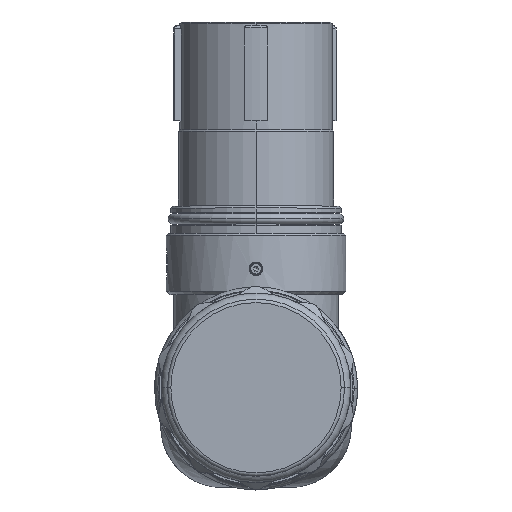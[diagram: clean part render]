
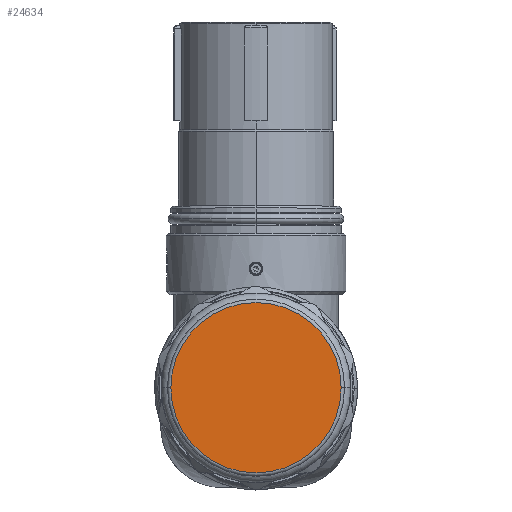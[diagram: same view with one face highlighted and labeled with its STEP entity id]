
A CAD part, top view. The second image highlights one B-rep face of the part: STEP entity #24634.
In plain terms, the highlighted planar face has unit normal (0, 0, 1).
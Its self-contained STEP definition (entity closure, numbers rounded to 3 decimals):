
#499 = DIRECTION ( 'NONE',  ( 1., 0., 0. ) ) ;
#3414 = EDGE_CURVE ( 'NONE', #26444, #29775, #13544, .T. ) ;
#5078 = CARTESIAN_POINT ( 'NONE',  ( 0., 0., 78.1 ) ) ;
#5957 = FACE_OUTER_BOUND ( 'NONE', #23673, .T. ) ;
#7763 = DIRECTION ( 'NONE',  ( 1., 0., 0. ) ) ;
#12007 = CARTESIAN_POINT ( 'NONE',  ( -12.5, 0., 78.1 ) ) ;
#12427 = AXIS2_PLACEMENT_3D ( 'NONE', #32273, #16409, #499 ) ;
#13544 = CIRCLE ( 'NONE', #13986, 12.5 ) ;
#13607 = PLANE ( 'NONE',  #12427 ) ;
#13857 = ORIENTED_EDGE ( 'NONE', *, *, #17457, .T. ) ;
#13986 = AXIS2_PLACEMENT_3D ( 'NONE', #30545, #14651, #33201 ) ;
#14651 = DIRECTION ( 'NONE',  ( 0., 0., 1. ) ) ;
#15464 = CIRCLE ( 'NONE', #25639, 12.5 ) ;
#16409 = DIRECTION ( 'NONE',  ( 0., 0., 1. ) ) ;
#17457 = EDGE_CURVE ( 'NONE', #29775, #26444, #15464, .T. ) ;
#18133 = CARTESIAN_POINT ( 'NONE',  ( 12.5, 0., 78.1 ) ) ;
#23662 = DIRECTION ( 'NONE',  ( 0., 0., 1. ) ) ;
#23673 = EDGE_LOOP ( 'NONE', ( #34180, #13857 ) ) ;
#24634 = ADVANCED_FACE ( 'NONE', ( #5957 ), #13607, .T. ) ;
#25639 = AXIS2_PLACEMENT_3D ( 'NONE', #5078, #23662, #7763 ) ;
#26444 = VERTEX_POINT ( 'NONE', #18133 ) ;
#29775 = VERTEX_POINT ( 'NONE', #12007 ) ;
#30545 = CARTESIAN_POINT ( 'NONE',  ( 0., 0., 78.1 ) ) ;
#32273 = CARTESIAN_POINT ( 'NONE',  ( 0., 0., 78.1 ) ) ;
#33201 = DIRECTION ( 'NONE',  ( 1., 0., 0. ) ) ;
#34180 = ORIENTED_EDGE ( 'NONE', *, *, #3414, .T. ) ;
